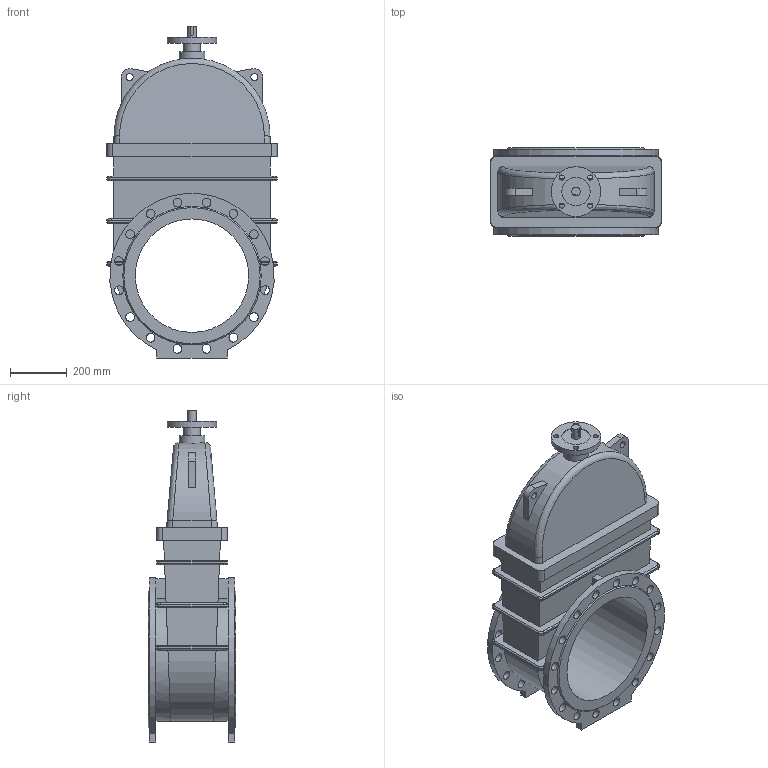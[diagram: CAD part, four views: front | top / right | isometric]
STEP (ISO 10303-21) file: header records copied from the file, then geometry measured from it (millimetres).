
FILE_DESCRIPTION(('STEP AP203'), '1');
FILE_NAME('Çàäâèæêà 47GVA.Z DN400 PN16 áåç èñïîëíèò. ìåõ.', '', ('UNSPECIFIED'), ('UNSPECIFIED'), 'ASCON STEP Converter 1.6', 'ASCON Math Kernel', '');
FILE_SCHEMA(('CONFIG_CONTROL_DESIGN'));
Length unit declared in the file: millimetre
Bounding box: 600 x 310 x 1170 mm (x, y, z)
Volume: 74831751.6 mm3; surface area: 2620848 mm2
Topology: 1 solids, 1 shells, 242 faces, 612 edges, 390 vertices
Faces by surface type: cylinder 113, plane 101, bspline 26, cone 2
Full cylindrical faces by diameter (mm): 18 x4, 25 x2, 30 x1, 31 x32, 60 x1, 90 x1, 100 x1, 175 x1, 400 x1
Entity records: 12362 total; most frequent: CARTESIAN_POINT 4788, ORIENTED_EDGE 1132, DIRECTION 1083, EDGE_CURVE 566, AXIS2_PLACEMENT_3D 398, VERTEX_POINT 390, EDGE_LOOP 384, FACE_BOUND 293
